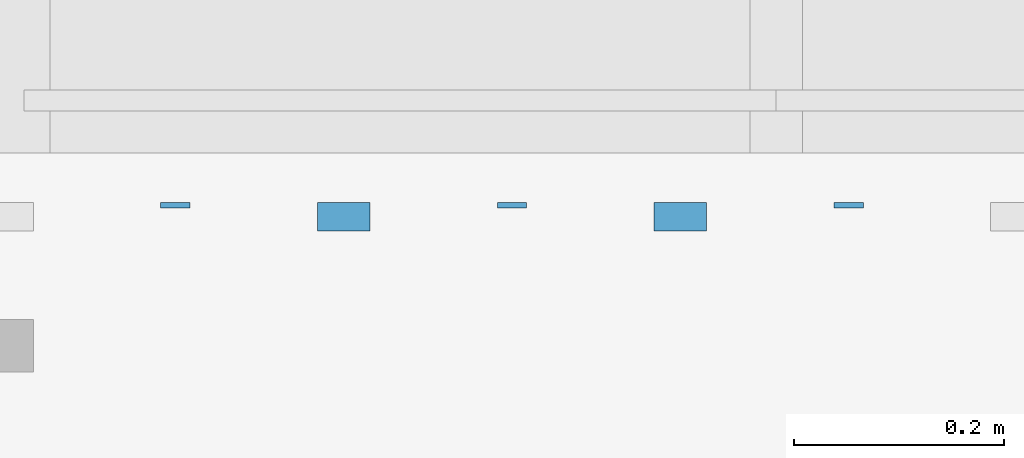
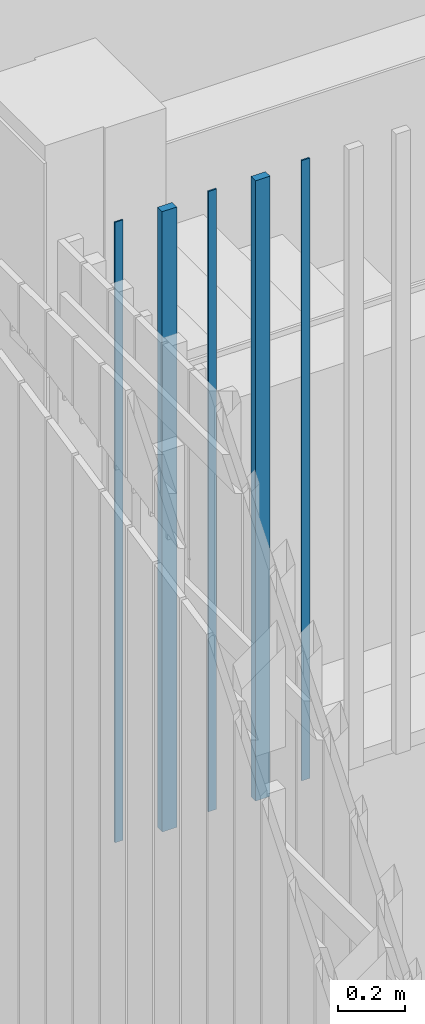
# One storey, part 147 of 390: 5 walls.
"""IFC2X3 building model written with IfcOpenShell, lengths in millimetres."""

from ifc_helpers import new_model, entity, si_unit, converted_unit, derived_unit, money_unit, direction, frame, origin_with_axes, place, context, subcontext, project, spatial, faceted_brep, material, type_object, element, save


model = new_model("IFC2X3")

# Units and contexts
model_context = context("Model", 3, precision=1e-05, world=origin_with_axes(), true_north=direction((0.0, 1.0)))
body_context = subcontext(model_context, "Body", "Model", "MODEL_VIEW")
ifc_project = project(units=[si_unit("LENGTHUNIT", "METRE", prefix="MILLI"), si_unit("AREAUNIT", "SQUARE_METRE"), si_unit("VOLUMEUNIT", "CUBIC_METRE"), converted_unit("PLANEANGLEUNIT", "DEGREE", entity("IfcPlaneAngleMeasure", 0.0174532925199), si_unit("PLANEANGLEUNIT", "RADIAN"), dimensions=[0, 0, 0, 0, 0, 0, 0]), si_unit("SOLIDANGLEUNIT", "STERADIAN"), money_unit("EUR"), converted_unit("TIMEUNIT", "Year", entity("IfcTimeMeasure", 31556926.0), si_unit("TIMEUNIT", "SECOND"), dimensions=[0, 0, 1, 0, 0, 0, 0]), si_unit("MASSUNIT", "GRAM", prefix="KILO"), si_unit("THERMODYNAMICTEMPERATUREUNIT", "DEGREE_CELSIUS"), si_unit("LUMINOUSINTENSITYUNIT", "LUMEN"), si_unit("ENERGYUNIT", "JOULE", prefix="MEGA"), derived_unit("THERMALCONDUCTANCEUNIT", [(si_unit("POWERUNIT", "WATT"), 1), (si_unit("LENGTHUNIT", "METRE"), -1), (si_unit("THERMODYNAMICTEMPERATUREUNIT", "KELVIN"), -1)]), derived_unit("SPECIFICHEATCAPACITYUNIT", [(si_unit("ENERGYUNIT", "JOULE"), 1), (si_unit("MASSUNIT", "GRAM", prefix="KILO"), -1), (si_unit("THERMODYNAMICTEMPERATUREUNIT", "KELVIN"), -1)]), derived_unit("MASSDENSITYUNIT", [(si_unit("MASSUNIT", "GRAM", prefix="KILO"), 1), (si_unit("VOLUMEUNIT", "CUBIC_METRE"), -1)])], contexts=[model_context])

# Site, building, storey
site_placement = place(None, origin_with_axes())
site = spatial("IfcSite", under=ifc_project, at=site_placement, Name="Site", CompositionType="ELEMENT")
building_placement = place(site_placement, origin_with_axes())
building = spatial("IfcBuilding", under=site, at=building_placement, Name="Building", CompositionType="ELEMENT")
storey_placement = place(building_placement, origin_with_axes())
storey = spatial("IfcBuildingStorey", under=building, at=storey_placement, Name="1 korrus", CompositionType="ELEMENT", Elevation=0.0)

# Walls
ifc_material = material(Name="Site specified")
wall_type = type_object("IfcWallType", Name="Puitfassaadi ribistik", PredefinedType="NOTDEFINED")
wall_1_placement = place(storey_placement, frame((129588.999994, 45271.9999735, 7614.99996126), z_axis=(0.0, 0.0, 1.0), x_axis=(-1.0, 0.0, 0.0)))
element("IfcWall", 1, at=wall_1_placement, inside=storey, type_object=wall_type, material=ifc_material, Name="Site specified", context=body_context, shape_type="Brep", body=[
    faceted_brep([(-14.0, 14.0, 0.0), (-14.0, 8.99996309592, 0.0), (-14.0, 8.99996508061, 2250.00003874), (-14.0, 14.0, 2250.00003874), (14.0, 14.0, 0.0), (14.0, 8.99996309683, 0.0), (14.0, 8.99996508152, 2250.00003874), (14.0, 14.0, 2250.00003874)], [[[0, 1, 2, 3]], [[4, 5, 1, 0]], [[6, 2, 1, 5]], [[3, 2, 6, 7]], [[3, 7, 4, 0]], [[6, 5, 4, 7]]]),
])
wall_2_placement = place(storey_placement, frame((129908.999994, 45271.999981, 7614.99996126), z_axis=(0.0, 0.0, 1.0), x_axis=(-1.0, 0.0, 0.0)))
element("IfcWall", 2, at=wall_2_placement, inside=storey, type_object=wall_type, material=ifc_material, Name="Site specified", context=body_context, shape_type="Brep", body=[
    faceted_brep([(-14.0, 14.0, 0.0), (-14.0, 8.99997059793, 0.0), (-14.0, 8.99997258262, 2250.00003874), (-14.0, 14.0, 2250.00003874), (14.0, 14.0, 0.0), (14.0, 8.99997059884, 0.0), (14.0, 8.99997258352, 2250.00003874), (14.0, 14.0, 2250.00003874)], [[[0, 1, 2, 3]], [[4, 5, 1, 0]], [[6, 2, 1, 5]], [[3, 2, 6, 7]], [[3, 7, 4, 0]], [[6, 5, 4, 7]]]),
])
wall_3_placement = place(storey_placement, frame((129268.999994, 45271.9999735, 7614.99996126), z_axis=(0.0, 0.0, 1.0), x_axis=(-1.0, 0.0, 0.0)))
element("IfcWall", 3, at=wall_3_placement, inside=storey, type_object=wall_type, material=ifc_material, Name="Site specified", context=body_context, shape_type="Brep", body=[
    faceted_brep([(-14.0, 14.0, 0.0), (-14.0, 8.99996309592, 0.0), (-14.0, 8.99996508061, 2250.00003874), (-14.0, 14.0, 2250.00003874), (14.0, 14.0, 0.0), (14.0, 8.99996309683, 0.0), (14.0, 8.99996508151, 2250.00003874), (14.0, 14.0, 2250.00003874)], [[[0, 1, 2, 3]], [[4, 5, 1, 0]], [[6, 2, 1, 5]], [[3, 2, 6, 7]], [[3, 7, 4, 0]], [[6, 5, 4, 7]]]),
])
wall_4_placement = place(storey_placement, frame((129428.999994, 45260.9999735, 7614.99996126), z_axis=(0.0, 0.0, 1.0), x_axis=(-1.0, 0.0, 0.0)))
element("IfcWall", 4, at=wall_4_placement, inside=storey, type_object=wall_type, material=ifc_material, Name="Site specified", context=body_context, shape_type="Brep", body=[
    faceted_brep([(-25.0, 25.0, 0.0), (-25.0, -2.00003690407, 0.0), (-25.0, -2.00003491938, 2250.00003874), (-25.0, 25.0, 2250.00003874), (25.0, 25.0, 0.0), (25.0, -2.00003690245, 0.0), (25.0, -2.00003491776, 2250.00003874), (25.0, 25.0, 2250.00003874)], [[[0, 1, 2, 3]], [[4, 5, 1, 0]], [[6, 2, 1, 5]], [[3, 2, 6, 7]], [[3, 7, 4, 0]], [[6, 5, 4, 7]]]),
])
wall_5_placement = place(storey_placement, frame((129748.999994, 45260.9999236, 7614.99996126), z_axis=(0.0, 0.0, 1.0), x_axis=(-1.0, 0.0, 0.0)))
element("IfcWall", 5, at=wall_5_placement, inside=storey, type_object=wall_type, material=ifc_material, Name="Site specified", context=body_context, shape_type="Brep", body=[
    faceted_brep([(-25.0, 25.0, 0.0), (-25.0, -2.00008682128, 0.0), (-25.0, -2.0000848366, 2250.00003874), (-25.0, 25.0, 2250.00003874), (25.0, 25.0, 0.0), (25.0, -2.00008681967, 0.0), (25.0, -2.00008483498, 2250.00003874), (25.0, 25.0, 2250.00003874)], [[[0, 1, 2, 3]], [[4, 5, 1, 0]], [[6, 2, 1, 5]], [[3, 2, 6, 7]], [[3, 7, 4, 0]], [[6, 5, 4, 7]]]),
])

save(model, "model.ifc")
